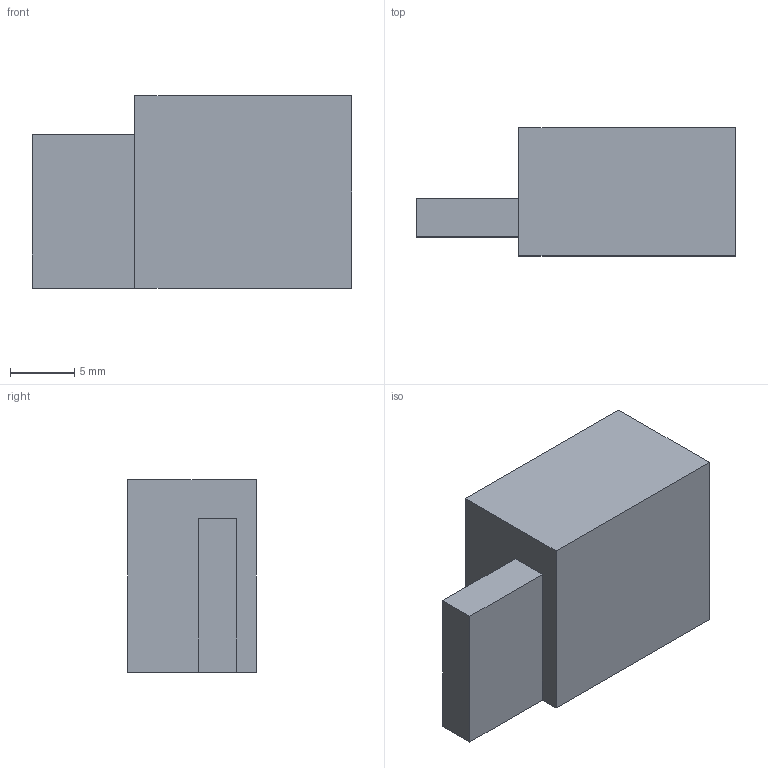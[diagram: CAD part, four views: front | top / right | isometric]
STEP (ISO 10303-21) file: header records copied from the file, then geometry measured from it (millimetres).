
FILE_DESCRIPTION(('Open CASCADE Model'),'2;1');
FILE_NAME('Open CASCADE Shape Model','2026-10-21T18:57:55',('Author'),( 'Open CASCADE'),'Open CASCADE STEP processor 8.0','build123d', 'Unknown');
FILE_SCHEMA(('AUTOMOTIVE_DESIGN { 1 0 10303 214 1 1 1 1 }'));
Length unit declared in the file: millimetre
Products named in the file (1): SOLID
Bounding box: 24.9 x 10 x 15 mm (x, y, z)
Volume: 2823 mm3; surface area: 1385 mm2
Topology: 1 solids, 1 shells, 10 faces, 24 edges, 16 vertices
Faces by surface type: plane 10
Entity records: 602 total; most frequent: CARTESIAN_POINT 107, DIRECTION 86, LINE 64, VECTOR 64, ORIENTED_EDGE 48, PCURVE 48, DEFINITIONAL_REPRESENTATION 48, EDGE_CURVE 24
